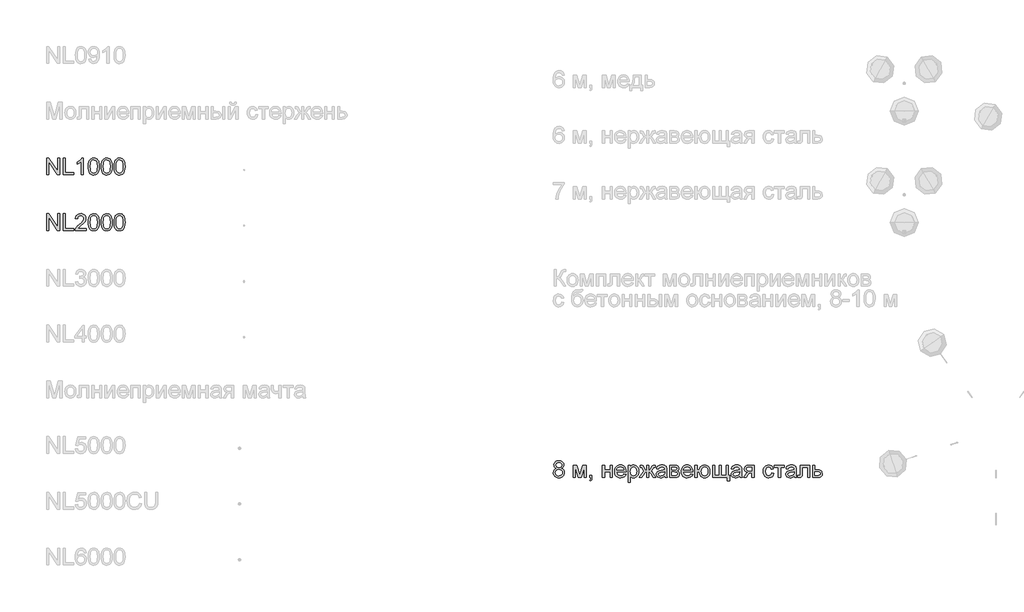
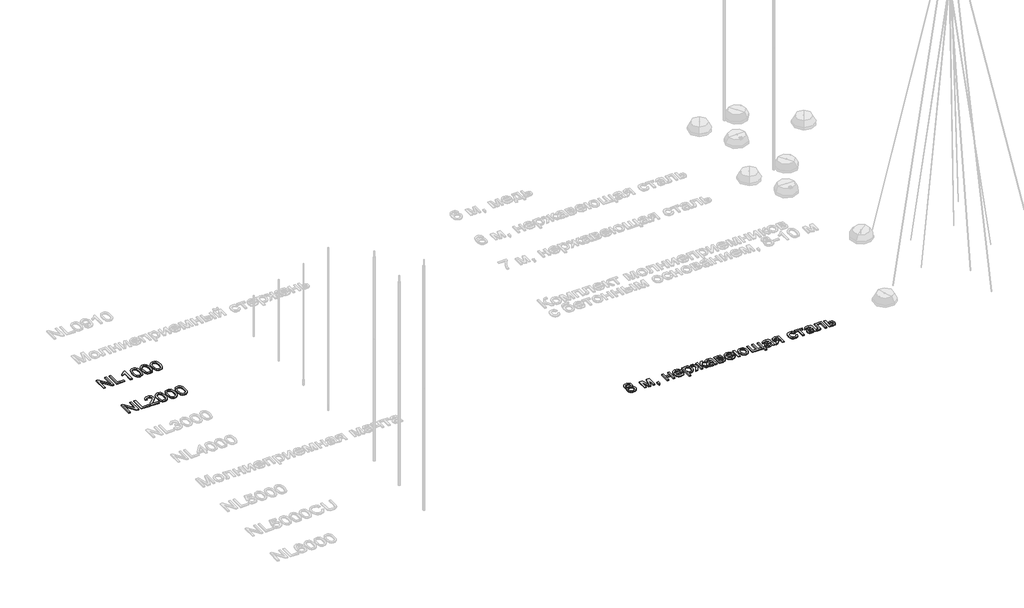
# One storey, part 40 of 124: 3 proxies.
"""IFC4 building model written with IfcOpenShell, lengths in millimetres."""

from ifc_helpers import new_model, si_unit, origin, origin_with_axes, place, context, project, spatial, polyline, outline, extrude, element, save

model = new_model("IFC4")

# Units and contexts
model_context = context("Model", 3, world=origin())
ifc_project = project(units=[si_unit("LENGTHUNIT", "METRE", prefix="MILLI")], contexts=[model_context])

# Site, building, storey
site = spatial("IfcSite", under=ifc_project)
building = spatial("IfcBuilding", under=site)
storey = spatial("IfcBuildingStorey", under=building, Name="Этаж 01", Elevation=0.0)

# Proxies
placement = place(None, origin())
element("IfcBuildingElementProxy", 1, Name="300", ObjectType="300", at=placement, inside=storey, context=model_context, shape_type="SweptSolid", body=[
    extrude(outline(polyline([(1299.8220677, -65074.498362), (1299.8220677, -64773.1294316), (1340.1419344, -64773.1294316), (1497.5954283, -65011.8848464), (1497.5954283, -64773.1294316), (1535.2665446, -64773.1294316), (1535.2665446, -65074.498362), (1494.9466779, -65074.498362), (1337.493184, -64835.6693707), (1337.493184, -65074.498362), (1299.8220677, -65074.498362)])), origin_with_axes(), (0.0, 0.0, 1.0), 20.0),
    extrude(outline(polyline([(1601.1909981, -65074.498362), (1601.1909981, -64773.1294316), (1638.8621144, -64773.1294316), (1638.8621144, -65036.8272457), (1789.5465797, -65036.8272457), (1789.5465797, -65074.498362), (1601.1909981, -65074.498362)])), origin_with_axes(), (0.0, 0.0, 1.0), 20.0),
    extrude(outline(polyline([(1959.0666031, -65074.498362), (1921.3954867, -65074.498362), (1921.3954867, -64839.6424963), (1885.7109332, -64865.0631421), (1846.0532541, -64884.0826413), (1846.0532541, -64848.4716642), (1875.6401636, -64832.3768269), (1901.2723416, -64813.228569), (1921.4782602, -64792.8663006), (1934.7863914, -64773.1294316), (1959.0666031, -64773.1294316), (1959.0666031, -65074.498362)])), origin_with_axes(), (0.0, 0.0, 1.0), 20.0),
    extrude(outline(polyline([(2048.5355043, -64926.2419179), (2051.3038163, -64878.0033913), (2059.6087523, -64839.5321317), (2073.367539, -64810.2395278), (2092.4974027, -64789.5369685), (2117.1362993, -64777.2313158), (2147.4221846, -64773.1294316), (2170.6355385, -64775.5574527), (2191.4208712, -64782.8415162), (2208.8032955, -64794.6965135), (2221.807924, -64810.8373361), (2231.6303733, -64831.1260281), (2239.4662598, -64855.4246339), (2244.5982136, -64886.2807362), (2246.3088649, -64926.2419179), (2243.568144, -64974.2045331), (2235.3459814, -65012.5838222), (2221.6699683, -65041.9040172), (2202.5676957, -65062.68935), (2177.8736167, -65075.0777761), (2147.4221846, -65079.2072515), (2126.6736401, -65077.4138268), (2108.2795403, -65072.0335526), (2092.2398853, -65063.066429), (2078.5546751, -65050.5124559), (2065.4212879, -65027.8187353), (2056.040297, -64999.5424055), (2050.4117025, -64965.6834664), (2048.5355043, -64926.2419179)]), holes=[polyline([(2086.2066206, -64926.1683415), (2090.6212045, -64985.4249339), (2096.1394345, -65005.6929326), (2103.8649564, -65019.7207329), (2123.5834313, -65036.0822847), (2147.4221846, -65041.5361352), (2171.2609379, -65036.0638906), (2190.9794128, -65019.6471565), (2198.7049347, -65005.5963636), (2204.2231646, -64985.3329634), (2208.6377486, -64926.1683415), (2204.3703174, -64868.2453214), (2199.0360285, -64848.0440013), (2191.568024, -64833.682808), (2171.8863373, -64816.5211129), (2146.9807262, -64810.8005479), (2123.3994903, -64815.8405312), (2104.4535675, -64830.9604812), (2096.4705282, -64846.595466), (2090.7683573, -64867.6751043), (2086.2066206, -64926.1683415)])]), origin_with_axes(), (0.0, 0.0, 1.0), 20.0),
    extrude(outline(polyline([(2279.2710917, -64926.2419179), (2282.0394037, -64878.0033913), (2290.3443397, -64839.5321317), (2304.1031263, -64810.2395278), (2323.2329901, -64789.5369685), (2347.8718867, -64777.2313158), (2378.157772, -64773.1294316), (2401.3711259, -64775.5574527), (2422.1564586, -64782.8415162), (2439.5388829, -64794.6965135), (2452.5435114, -64810.8373361), (2462.3659607, -64831.1260281), (2470.2018471, -64855.4246339), (2475.333801, -64886.2807362), (2477.0444523, -64926.2419179), (2474.3037314, -64974.2045331), (2466.0815688, -65012.5838222), (2452.4055556, -65041.9040172), (2433.303283, -65062.68935), (2408.6092041, -65075.0777761), (2378.157772, -65079.2072515), (2357.4092274, -65077.4138268), (2339.0151277, -65072.0335526), (2322.9754727, -65063.066429), (2309.2902625, -65050.5124559), (2296.1568752, -65027.8187353), (2286.7758844, -64999.5424055), (2281.1472898, -64965.6834664), (2279.2710917, -64926.2419179)]), holes=[polyline([(2316.942208, -64926.1683415), (2321.3567919, -64985.4249339), (2326.8750218, -65005.6929326), (2334.6005437, -65019.7207329), (2354.3190187, -65036.0822847), (2378.157772, -65041.5361352), (2401.9965252, -65036.0638906), (2421.7150002, -65019.6471565), (2429.4405221, -65005.5963636), (2434.958752, -64985.3329634), (2439.373336, -64926.1683415), (2435.1059048, -64868.2453214), (2429.7716159, -64848.0440013), (2422.3036114, -64833.682808), (2402.6219246, -64816.5211129), (2377.7163136, -64810.8005479), (2354.1350777, -64815.8405312), (2335.1891549, -64830.9604812), (2327.2061156, -64846.595466), (2321.5039447, -64867.6751043), (2316.942208, -64926.1683415)])]), origin_with_axes(), (0.0, 0.0, 1.0), 20.0),
    extrude(outline(polyline([(2510.006679, -64926.2419179), (2512.774991, -64878.0033913), (2521.0799271, -64839.5321317), (2534.8387137, -64810.2395278), (2553.9685775, -64789.5369685), (2578.6074741, -64777.2313158), (2608.8933593, -64773.1294316), (2632.1067132, -64775.5574527), (2652.892046, -64782.8415162), (2670.2744702, -64794.6965135), (2683.2790988, -64810.8373361), (2693.101548, -64831.1260281), (2700.9374345, -64855.4246339), (2706.0693884, -64886.2807362), (2707.7800396, -64926.2419179), (2705.0393188, -64974.2045331), (2696.8171562, -65012.5838222), (2683.141143, -65041.9040172), (2664.0388704, -65062.68935), (2639.3447915, -65075.0777761), (2608.8933593, -65079.2072515), (2588.1448148, -65077.4138268), (2569.750715, -65072.0335526), (2553.7110601, -65063.066429), (2540.0258498, -65050.5124559), (2526.8924626, -65027.8187353), (2517.5114717, -64999.5424055), (2511.8828772, -64965.6834664), (2510.006679, -64926.2419179)]), holes=[polyline([(2547.6777953, -64926.1683415), (2552.0923793, -64985.4249339), (2557.6106092, -65005.6929326), (2565.3361311, -65019.7207329), (2585.054606, -65036.0822847), (2608.8933593, -65041.5361352), (2632.7321126, -65036.0638906), (2652.4505876, -65019.6471565), (2660.1761095, -65005.5963636), (2665.6943394, -64985.3329634), (2670.1089233, -64926.1683415), (2665.8414922, -64868.2453214), (2660.5072033, -64848.0440013), (2653.0391988, -64833.682808), (2633.357512, -64816.5211129), (2608.4519009, -64810.8005479), (2584.870665, -64815.8405312), (2565.9247423, -64830.9604812), (2557.941703, -64846.595466), (2552.2395321, -64867.6751043), (2547.6777953, -64926.1683415)])]), origin_with_axes(), (0.0, 0.0, 1.0), 20.0),
])
element("IfcBuildingElementProxy", 2, Name="300", ObjectType="300", at=placement, inside=storey, context=model_context, shape_type="SweptSolid", body=[
    extrude(outline(polyline([(1299.8220677, -66074.498362), (1299.8220677, -65773.1294316), (1340.1419344, -65773.1294316), (1497.5954283, -66011.8848464), (1497.5954283, -65773.1294316), (1535.2665446, -65773.1294316), (1535.2665446, -66074.498362), (1494.9466779, -66074.498362), (1337.493184, -65835.6693707), (1337.493184, -66074.498362), (1299.8220677, -66074.498362)])), origin_with_axes(), (0.0, 0.0, 1.0), 20.0),
    extrude(outline(polyline([(1601.1909981, -66074.498362), (1601.1909981, -65773.1294316), (1638.8621144, -65773.1294316), (1638.8621144, -66036.8272457), (1789.5465797, -66036.8272457), (1789.5465797, -66074.498362), (1601.1909981, -66074.498362)])), origin_with_axes(), (0.0, 0.0, 1.0), 20.0),
    extrude(outline(polyline([(2010.864388, -66036.8272457), (2010.864388, -66074.498362), (1813.0910274, -66074.498362), (1817.1377293, -66048.5258931), (1826.4267497, -66028.2280041), (1840.0199894, -66008.5371203), (1859.6832821, -65987.9265315), (1887.1824612, -65964.8695274), (1927.8334217, -65928.7619096), (1952.2239979, -65902.1088591), (1964.4192861, -65880.4773977), (1968.4843821, -65859.4345476), (1964.6492123, -65840.5713983), (1953.1437029, -65824.8904283), (1935.457776, -65814.323018), (1913.0813537, -65810.8005479), (1889.5828912, -65814.2402445), (1871.3267472, -65824.5593345), (1859.5453263, -65840.9484774), (1855.4710332, -65862.5983328), (1817.7999169, -65857.8894432), (1826.9325874, -65821.4507316), (1835.478946, -65806.9147943), (1846.6786535, -65794.8344693), (1860.2741925, -65785.3385153), (1876.0080456, -65778.555691), (1913.890694, -65773.1294316), (1934.0805178, -65774.6377477), (1952.049254, -65779.1626963), (1967.7969026, -65786.7042772), (1981.3234638, -65797.2624904), (1992.1874789, -65810.0555868), (1999.9474898, -65824.3018171), (2004.6034963, -65840.0011812), (2006.1554984, -65857.1536793), (2004.4816354, -65875.1707), (1999.4600461, -65892.875021), (1990.5481048, -65910.8828446), (1977.2031854, -65929.8103733), (1955.930409, -65952.4075249), (1923.2348967, -65981.4242172), (1879.8983977, -66017.6605937), (1862.9022495, -66036.8272457), (2010.864388, -66036.8272457)])), origin_with_axes(), (0.0, 0.0, 1.0), 20.0),
    extrude(outline(polyline([(2048.5355043, -65926.2419179), (2051.3038163, -65878.0033913), (2059.6087523, -65839.5321317), (2073.367539, -65810.2395278), (2092.4974027, -65789.5369685), (2117.1362993, -65777.2313158), (2147.4221846, -65773.1294316), (2170.6355385, -65775.5574527), (2191.4208712, -65782.8415162), (2208.8032955, -65794.6965135), (2221.807924, -65810.8373361), (2231.6303733, -65831.1260281), (2239.4662598, -65855.4246339), (2244.5982136, -65886.2807362), (2246.3088649, -65926.2419179), (2243.568144, -65974.2045331), (2235.3459814, -66012.5838222), (2221.6699683, -66041.9040172), (2202.5676957, -66062.68935), (2177.8736167, -66075.0777761), (2147.4221846, -66079.2072515), (2126.6736401, -66077.4138268), (2108.2795403, -66072.0335526), (2092.2398853, -66063.066429), (2078.5546751, -66050.5124559), (2065.4212879, -66027.8187353), (2056.040297, -65999.5424055), (2050.4117025, -65965.6834664), (2048.5355043, -65926.2419179)]), holes=[polyline([(2086.2066206, -65926.1683415), (2090.6212045, -65985.4249339), (2096.1394345, -66005.6929326), (2103.8649564, -66019.7207329), (2123.5834313, -66036.0822847), (2147.4221846, -66041.5361352), (2171.2609379, -66036.0638906), (2190.9794128, -66019.6471565), (2198.7049347, -66005.5963636), (2204.2231646, -65985.3329634), (2208.6377486, -65926.1683415), (2204.3703174, -65868.2453214), (2199.0360285, -65848.0440013), (2191.568024, -65833.682808), (2171.8863373, -65816.5211129), (2146.9807262, -65810.8005479), (2123.3994903, -65815.8405312), (2104.4535675, -65830.9604812), (2096.4705282, -65846.595466), (2090.7683573, -65867.6751043), (2086.2066206, -65926.1683415)])]), origin_with_axes(), (0.0, 0.0, 1.0), 20.0),
    extrude(outline(polyline([(2279.2710917, -65926.2419179), (2282.0394037, -65878.0033913), (2290.3443397, -65839.5321317), (2304.1031263, -65810.2395278), (2323.2329901, -65789.5369685), (2347.8718867, -65777.2313158), (2378.157772, -65773.1294316), (2401.3711259, -65775.5574527), (2422.1564586, -65782.8415162), (2439.5388829, -65794.6965135), (2452.5435114, -65810.8373361), (2462.3659607, -65831.1260281), (2470.2018471, -65855.4246339), (2475.333801, -65886.2807362), (2477.0444523, -65926.2419179), (2474.3037314, -65974.2045331), (2466.0815688, -66012.5838222), (2452.4055556, -66041.9040172), (2433.303283, -66062.68935), (2408.6092041, -66075.0777761), (2378.157772, -66079.2072515), (2357.4092274, -66077.4138268), (2339.0151277, -66072.0335526), (2322.9754727, -66063.066429), (2309.2902625, -66050.5124559), (2296.1568752, -66027.8187353), (2286.7758844, -65999.5424055), (2281.1472898, -65965.6834664), (2279.2710917, -65926.2419179)]), holes=[polyline([(2316.942208, -65926.1683415), (2321.3567919, -65985.4249339), (2326.8750218, -66005.6929326), (2334.6005437, -66019.7207329), (2354.3190187, -66036.0822847), (2378.157772, -66041.5361352), (2401.9965252, -66036.0638906), (2421.7150002, -66019.6471565), (2429.4405221, -66005.5963636), (2434.958752, -65985.3329634), (2439.373336, -65926.1683415), (2435.1059048, -65868.2453214), (2429.7716159, -65848.0440013), (2422.3036114, -65833.682808), (2402.6219246, -65816.5211129), (2377.7163136, -65810.8005479), (2354.1350777, -65815.8405312), (2335.1891549, -65830.9604812), (2327.2061156, -65846.595466), (2321.5039447, -65867.6751043), (2316.942208, -65926.1683415)])]), origin_with_axes(), (0.0, 0.0, 1.0), 20.0),
    extrude(outline(polyline([(2510.006679, -65926.2419179), (2512.774991, -65878.0033913), (2521.0799271, -65839.5321317), (2534.8387137, -65810.2395278), (2553.9685775, -65789.5369685), (2578.6074741, -65777.2313158), (2608.8933593, -65773.1294316), (2632.1067132, -65775.5574527), (2652.892046, -65782.8415162), (2670.2744702, -65794.6965135), (2683.2790988, -65810.8373361), (2693.101548, -65831.1260281), (2700.9374345, -65855.4246339), (2706.0693884, -65886.2807362), (2707.7800396, -65926.2419179), (2705.0393188, -65974.2045331), (2696.8171562, -66012.5838222), (2683.141143, -66041.9040172), (2664.0388704, -66062.68935), (2639.3447915, -66075.0777761), (2608.8933593, -66079.2072515), (2588.1448148, -66077.4138268), (2569.750715, -66072.0335526), (2553.7110601, -66063.066429), (2540.0258498, -66050.5124559), (2526.8924626, -66027.8187353), (2517.5114717, -65999.5424055), (2511.8828772, -65965.6834664), (2510.006679, -65926.2419179)]), holes=[polyline([(2547.6777953, -65926.1683415), (2552.0923793, -65985.4249339), (2557.6106092, -66005.6929326), (2565.3361311, -66019.7207329), (2585.054606, -66036.0822847), (2608.8933593, -66041.5361352), (2632.7321126, -66036.0638906), (2652.4505876, -66019.6471565), (2660.1761095, -66005.5963636), (2665.6943394, -65985.3329634), (2670.1089233, -65926.1683415), (2665.8414922, -65868.2453214), (2660.5072033, -65848.0440013), (2653.0391988, -65833.682808), (2633.357512, -65816.5211129), (2608.4519009, -65810.8005479), (2584.870665, -65815.8405312), (2565.9247423, -65830.9604812), (2557.941703, -65846.595466), (2552.2395321, -65867.6751043), (2547.6777953, -65926.1683415)])]), origin_with_axes(), (0.0, 0.0, 1.0), 20.0),
])
element("IfcBuildingElementProxy", 3, Name="300", ObjectType="300", at=placement, inside=storey, context=model_context, shape_type="SweptSolid", body=[
    extrude(outline(polyline([(10440.5833928, -70341.4722325), (10420.4142624, -70331.5394187), (10406.2600026, -70318.0749377), (10397.8998843, -70301.354701), (10395.1131782, -70281.6546201), (10396.6306914, -70266.2909483), (10401.1832311, -70252.2056664), (10408.7707972, -70239.3987745), (10419.3933898, -70227.8702724), (10432.5405726, -70218.3421288), (10447.7019094, -70211.5363118), (10484.0670446, -70206.0916583), (10520.652909, -70211.6650705), (10535.9797926, -70218.6318358), (10549.3293105, -70228.3853072), (10560.1450412, -70240.139137), (10567.8705631, -70253.1069773), (10572.5058762, -70267.2888282), (10574.0509806, -70282.6846897), (10571.3010627, -70301.7501741), (10563.051309, -70318.1853023), (10549.2097489, -70331.5670098), (10529.684412, -70341.4722325), (10552.8701747, -70353.4192003), (10569.7467613, -70371.0131568), (10580.0382601, -70393.4079732), (10583.4687597, -70419.7575211), (10581.7673055, -70438.547094), (10576.6629428, -70455.7731684), (10568.1556716, -70471.4357444), (10556.245492, -70485.5348219), (10541.5578034, -70497.1874841), (10524.7180051, -70505.5108142), (10505.7260971, -70510.5048123), (10484.5820794, -70512.1694783), (10463.4380617, -70510.4979145), (10444.4461537, -70505.483223), (10427.6063554, -70497.125404), (10412.9186667, -70485.4244573), (10401.0084871, -70471.2265115), (10392.501216, -70455.3776953), (10387.3968533, -70437.8780086), (10385.6953991, -70418.7274515), (10389.2638544, -70391.3570311), (10399.9692205, -70368.842653), (10417.2596743, -70351.9568694), (10440.5833928, -70341.4722325)]), holes=[polyline([(10432.7842945, -70282.7582661), (10436.1228236, -70299.2025913), (10446.1384109, -70312.3359785), (10462.5367508, -70320.9444172), (10485.0235378, -70323.8138968), (10506.9860929, -70320.9628113), (10523.1361125, -70312.4095549), (10533.0689263, -70299.7176261), (10536.3798643, -70284.4505233), (10532.9585617, -70268.6040064), (10522.6946541, -70255.4982103), (10506.3239053, -70246.6966335), (10484.5820794, -70243.7627746), (10462.7022977, -70246.6322542), (10446.3591401, -70255.2406929), (10436.1780059, -70267.8590453), (10432.7842945, -70282.7582661)]), polyline([(10423.3665154, -70417.4030764), (10429.6572975, -70445.7667782), (10438.3669037, -70457.9344752), (10451.9141582, -70466.9935693), (10468.1377542, -70472.6221638), (10484.876385, -70474.498362), (10510.51776, -70470.5528276), (10529.7579884, -70458.7162244), (10541.7877296, -70440.7911742), (10545.7976434, -70418.5802987), (10541.6589709, -70395.9923442), (10529.2429536, -70377.6718209), (10509.5612669, -70365.531715), (10483.6255862, -70361.4850131), (10458.3428961, -70365.4765327), (10439.2958058, -70377.4510917), (10427.348838, -70395.4221271), (10423.3665154, -70417.4030764)])]), origin_with_axes(), (0.0, 0.0, 1.0), 20.0),
    extrude(outline(polyline([(10743.571004, -70286.1427805), (10808.3918115, -70286.1427805), (10858.3501865, -70463.3147493), (10912.2081106, -70286.1427805), (10974.3065914, -70286.1427805), (10974.3065914, -70507.4605888), (10936.6354751, -70507.4605888), (10936.6354751, -70329.2585503), (10882.4832454, -70507.4605888), (10833.0399052, -70507.4605888), (10781.2421203, -70320.723688), (10781.2421203, -70507.4605888), (10743.571004, -70507.4605888), (10743.571004, -70286.1427805)])), origin_with_axes(), (0.0, 0.0, 1.0), 20.0),
    extrude(outline(polyline([(11040.2310449, -70507.4605888), (11040.2310449, -70469.7894725), (11077.9021612, -70469.7894725), (11077.9021612, -70507.4605888), (11076.209904, -70529.0092766), (11071.1331325, -70545.9778337), (11062.377541, -70558.9916592), (11049.648824, -70568.6761528), (11040.2310449, -70554.5494842), (11048.3980252, -70547.7252731), (11054.0634079, -70538.2891), (11058.9930267, -70507.4605888), (11040.2310449, -70507.4605888)])), origin_with_axes(), (0.0, 0.0, 1.0), 20.0),
    extrude(outline(polyline([(11266.2577427, -70286.1427805), (11303.928859, -70286.1427805), (11303.928859, -70370.9027922), (11402.8155393, -70370.9027922), (11402.8155393, -70286.1427805), (11440.4866556, -70286.1427805), (11440.4866556, -70507.4605888), (11402.8155393, -70507.4605888), (11402.8155393, -70408.5739085), (11303.928859, -70408.5739085), (11303.928859, -70507.4605888), (11266.2577427, -70507.4605888), (11266.2577427, -70286.1427805)])), origin_with_axes(), (0.0, 0.0, 1.0), 20.0),
    extrude(outline(polyline([(11651.9452265, -70441.5361352), (11688.8805788, -70446.2450248), (11675.5724476, -70474.0752977), (11654.3364594, -70494.8790245), (11625.6508609, -70507.8468649), (11589.9938985, -70512.1694783), (11566.6195962, -70510.3047764), (11545.7928768, -70504.7106709), (11527.5137401, -70495.3871615), (11511.7821863, -70482.3342485), (11499.1316442, -70465.9152152), (11490.0955427, -70446.4933451), (11484.6738818, -70424.0686383), (11482.8666615, -70398.6410946), (11484.6922759, -70372.3513275), (11490.1691191, -70349.1793603), (11499.2971911, -70329.1251931), (11512.0764919, -70312.1888257), (11527.766659, -70298.7335418), (11545.6273299, -70289.1226246), (11565.6585045, -70283.3560744), (11587.8601829, -70281.4338909), (11609.3467907, -70283.3514758), (11628.7778578, -70289.1042305), (11646.1533843, -70298.692155), (11661.4733702, -70312.1152493), (11673.9790587, -70329.0148285), (11682.9116934, -70349.0322075), (11688.2712742, -70372.1673865), (11690.0578012, -70398.4203654), (11689.837072, -70408.5739085), (11520.5377778, -70408.5739085), (11527.0584862, -70436.7720634), (11542.2060273, -70457.5022138), (11564.0674149, -70470.249325), (11590.7296625, -70474.498362), (11610.7792312, -70472.5301933), (11627.6650148, -70466.6256873), (11641.3870132, -70456.4169619), (11651.9452265, -70441.5361352)]), holes=[polyline([(11520.5377778, -70370.9027922), (11652.3866849, -70370.9027922), (11647.2915192, -70351.0003762), (11637.3035231, -70336.763343), (11615.340968, -70323.5195912), (11587.7130301, -70319.1050072), (11562.3199754, -70322.6274773), (11541.3231105, -70333.1948877), (11526.7273924, -70349.666804), (11520.5377778, -70370.9027922)])]), origin_with_axes(), (0.0, 0.0, 1.0), 20.0),
    extrude(outline(polyline([(11727.7289175, -70592.2206005), (11727.7289175, -70286.1427805), (11765.4000338, -70286.1427805), (11765.4000338, -70323.0781328), (11777.6872924, -70304.858777), (11791.446079, -70291.8449514), (11807.485734, -70284.036656), (11826.6155978, -70281.4338909), (11852.091426, -70285.0759227), (11874.3666808, -70296.0020179), (11892.5032631, -70313.5499891), (11905.563074, -70337.0576486), (11913.4541427, -70364.8143451), (11916.084499, -70395.1094274), (11913.1138519, -70427.3266932), (11904.2019106, -70456.1410504), (11889.6337836, -70480.0901683), (11869.6945794, -70497.7117159), (11846.4720285, -70508.5550377), (11822.053861, -70512.1694783), (11804.7358161, -70509.7506542), (11789.2755753, -70502.4941818), (11776.0410205, -70491.5404954), (11765.4000338, -70478.0300292), (11765.4000338, -70592.2206005), (11727.7289175, -70592.2206005)]), holes=[polyline([(11765.4000338, -70398.5675182), (11769.4743269, -70432.3390854), (11781.6972062, -70455.9571094), (11799.732621, -70469.8630489), (11821.2445207, -70474.498362), (11843.1059082, -70469.697502), (11861.6011755, -70455.2949219), (11874.2103309, -70430.8123751), (11878.4133827, -70395.771615), (11874.3114985, -70362.1839889), (11862.0058457, -70338.234871), (11843.9980221, -70323.8874732), (11822.789625, -70319.1050072), (11801.4984546, -70324.1909758), (11782.8008522, -70339.4488816), (11769.7502384, -70364.4004779), (11765.4000338, -70398.5675182)])]), origin_with_axes(), (0.0, 0.0, 1.0), 20.0),
    extrude(outline(polyline([(12095.0223015, -70286.1427805), (12095.0223015, -70380.3205712), (12108.3120385, -70378.3799937), (12116.9848566, -70372.5582611), (12137.7701893, -70332.2751827), (12150.7380296, -70307.1672365), (12162.5654358, -70293.6475732), (12176.9312277, -70288.0189786), (12197.8085309, -70286.1427805), (12212.7445399, -70286.1427805), (12212.7445399, -70324.034626), (12202.3702677, -70323.8138968), (12182.9460983, -70327.7134459), (12169.4816173, -70352.1408104), (12153.8466325, -70378.9226197), (12131.5161954, -70392.5342535), (12143.9092201, -70397.8363527), (12156.145895, -70407.194351), (12180.1501952, -70438.0780445), (12222.162319, -70507.4605888), (12178.9729728, -70507.4605888), (12137.6230365, -70439.0345377), (12126.3198622, -70421.0726993), (12116.5433982, -70410.5972594), (12106.6565696, -70405.5480791), (12095.0223015, -70403.8650189), (12095.0223015, -70507.4605888), (12057.3511852, -70507.4605888), (12057.3511852, -70403.8650189), (12045.8088876, -70405.5112909), (12035.9036648, -70410.4501066), (12026.0536244, -70420.8519701), (12014.6768737, -70438.8873849), (11973.3269375, -70507.4605888), (11930.2111676, -70507.4605888), (11972.0761387, -70438.0780445), (11996.2643799, -70407.194351), (12008.5654341, -70397.8363527), (12021.004444, -70392.5342535), (12006.620258, -70385.3237664), (11997.3128435, -70377.5246681), (11977.0057574, -70338.8970586), (11967.0729435, -70326.1683415), (11950.8125594, -70323.5931676), (11939.6289467, -70323.8138968), (11939.6289467, -70286.1427805), (11945.2943294, -70286.1427805), (11978.3301326, -70288.4972252), (11995.4734336, -70298.5036155), (12014.6768737, -70332.2751827), (12035.2414773, -70372.3007437), (12043.9142953, -70378.3156144), (12057.3511852, -70380.3205712), (12057.3511852, -70286.1427805), (12095.0223015, -70286.1427805)])), origin_with_axes(), (0.0, 0.0, 1.0), 20.0),
    extrude(outline(polyline([(12382.2645633, -70479.2072515), (12364.2659367, -70494.6399012), (12345.7338812, -70504.738262), (12326.2453325, -70510.3116742), (12305.3772263, -70512.1694783), (12273.8957246, -70507.6997121), (12250.6731736, -70494.2904133), (12236.353367, -70473.9281449), (12231.5800981, -70448.5994695), (12233.3827199, -70432.9828788), (12238.7905852, -70418.8010279), (12247.1323094, -70406.6609221), (12257.7365079, -70397.1695666), (12284.113647, -70384.8087316), (12316.7079918, -70379.1433489), (12355.2252367, -70373.1836605), (12382.0438341, -70366.1939026), (12382.2645633, -70357.8061931), (12379.6709952, -70340.993986), (12371.890291, -70329.9943143), (12354.4894727, -70321.827334), (12330.2460492, -70319.1050072), (12307.8052475, -70320.9168261), (12292.1334745, -70326.3522825), (12281.4465025, -70336.4046581), (12273.9601039, -70352.067234), (12236.2889876, -70347.3583445), (12242.8280901, -70326.7569527), (12252.58616, -70310.570145), (12266.4737053, -70298.1909158), (12285.401234, -70289.01226), (12308.5502085, -70283.3284832), (12335.1020915, -70281.4338909), (12360.5687226, -70283.107754), (12380.7562471, -70288.1293432), (12395.9773647, -70295.6801212), (12406.544775, -70304.9415504), (12413.552927, -70316.3918775), (12418.0962696, -70330.5093491), (12419.9356796, -70363.4715759), (12419.9356796, -70410.339742), (12421.848666, -70475.785949), (12429.3534587, -70507.4605888), (12391.6823424, -70507.4605888), (12382.2645633, -70479.2072515)]), holes=[polyline([(12382.2645633, -70403.8650189), (12321.4904577, -70415.4165136), (12289.0800539, -70421.5233547), (12274.4015623, -70431.4561686), (12269.2512144, -70445.9507192), (12272.0563146, -70457.1527259), (12280.4716152, -70466.3313817), (12294.3131753, -70472.4566169), (12313.3970538, -70474.498362), (12333.6305635, -70472.2450848), (12351.5096285, -70465.4852531), (12366.0041791, -70455.5248481), (12376.0841458, -70443.6698508), (12380.553912, -70431.4561686), (12382.0438341, -70414.5335968), (12382.2645633, -70403.8650189)])]), origin_with_axes(), (0.0, 0.0, 1.0), 20.0),
    extrude(outline(polyline([(12471.7334645, -70286.1427805), (12554.7276426, -70286.1427805), (12581.4082843, -70287.4027763), (12600.2346454, -70291.1827638), (12614.0854026, -70298.3196745), (12625.8392323, -70309.65044), (12633.8682569, -70324.411705), (12636.5445984, -70341.8401145), (12634.9259176, -70355.8840097), (12630.0698753, -70367.9965244), (12621.9580773, -70378.2328409), (12610.5721295, -70386.6481416), (12624.5148571, -70394.474831), (12635.8824108, -70407.0655923), (12643.4423858, -70423.427144), (12645.9623774, -70442.5662048), (12639.5796248, -70471.2793945), (12624.4044925, -70491.4945102), (12600.3817982, -70503.4690691), (12567.4563597, -70507.4605888), (12471.7334645, -70507.4605888), (12471.7334645, -70286.1427805)]), holes=[polyline([(12509.4045808, -70370.9027922), (12546.6342387, -70370.9027922), (12577.3523853, -70368.9898058), (12592.2883943, -70361.3378603), (12597.2272101, -70355.01029), (12598.8734821, -70347.5054973), (12595.9856084, -70336.2667023), (12587.3219874, -70329.0378211), (12571.6686085, -70325.1198779), (12547.8114611, -70323.8138968), (12509.4045808, -70323.8138968), (12509.4045808, -70370.9027922)]), polyline([(12509.4045808, -70469.7894725), (12555.6105594, -70469.7894725), (12580.792082, -70468.0880182), (12596.5926137, -70462.9836556), (12605.0722937, -70453.7038322), (12608.2912611, -70439.4759961), (12606.6817774, -70430.0490199), (12601.8533262, -70421.3394137), (12594.440504, -70414.5243997), (12585.0779072, -70410.7812004), (12551.9317395, -70408.5739085), (12509.4045808, -70408.5739085), (12509.4045808, -70469.7894725)])]), origin_with_axes(), (0.0, 0.0, 1.0), 20.0),
    extrude(outline(polyline([(12848.0031692, -70441.5361352), (12884.9385215, -70446.2450248), (12871.6303903, -70474.0752977), (12850.3944022, -70494.8790245), (12821.7088036, -70507.8468649), (12786.0518412, -70512.1694783), (12762.6775389, -70510.3047764), (12741.8508195, -70504.7106709), (12723.5716829, -70495.3871615), (12707.840129, -70482.3342485), (12695.1895869, -70465.9152152), (12686.1534854, -70446.4933451), (12680.7318245, -70424.0686383), (12678.9246042, -70398.6410946), (12680.7502186, -70372.3513275), (12686.2270618, -70349.1793603), (12695.3551338, -70329.1251931), (12708.1344346, -70312.1888257), (12723.8246017, -70298.7335418), (12741.6852726, -70289.1226246), (12761.7164472, -70283.3560744), (12783.9181256, -70281.4338909), (12805.4047334, -70283.3514758), (12824.8358006, -70289.1042305), (12842.211327, -70298.692155), (12857.5313129, -70312.1152493), (12870.0370014, -70329.0148285), (12878.9696361, -70349.0322075), (12884.329217, -70372.1673865), (12886.1157439, -70398.4203654), (12885.8950147, -70408.5739085), (12716.5957205, -70408.5739085), (12723.1164289, -70436.7720634), (12738.26397, -70457.5022138), (12760.1253576, -70470.249325), (12786.7876052, -70474.498362), (12806.8371739, -70472.5301933), (12823.7229575, -70466.6256873), (12837.4449559, -70456.4169619), (12848.0031692, -70441.5361352)]), holes=[polyline([(12716.5957205, -70370.9027922), (12848.4446276, -70370.9027922), (12843.349462, -70351.0003762), (12833.3614658, -70336.763343), (12811.3989107, -70323.5195912), (12783.7709728, -70319.1050072), (12758.3779181, -70322.6274773), (12737.3810532, -70333.1948877), (12722.7853351, -70349.666804), (12716.5957205, -70370.9027922)])]), origin_with_axes(), (0.0, 0.0, 1.0), 20.0),
    extrude(outline(polyline([(12923.7868602, -70286.1427805), (12961.4579765, -70286.1427805), (12961.4579765, -70370.9027922), (13003.8379824, -70370.9027922), (13013.6144464, -70332.4959119), (13022.1378124, -70317.1552327), (13033.084601, -70304.3897274), (13046.1467111, -70294.346549), (13061.0160415, -70287.1728501), (13096.1763631, -70281.4338909), (13125.7264844, -70284.8092082), (13148.3052419, -70294.9351602), (13165.7244543, -70310.9840122), (13179.7959406, -70332.1280299), (13189.0941581, -70359.9399087), (13192.1935639, -70395.9923442), (13190.5909779, -70422.8477299), (13185.7832201, -70446.2450248), (13177.7702904, -70466.1842289), (13166.5521888, -70482.6653423), (13152.5887678, -70495.5734018), (13136.33988, -70504.7934443), (13117.8055252, -70510.3254698), (13096.9857035, -70512.1694783), (13077.5822275, -70510.4404329), (13060.2067011, -70505.2532968), (13044.8591241, -70496.6080699), (13031.5394966, -70484.5047523), (13020.5789124, -70469.3848023), (13012.3084653, -70451.6896783), (13003.8379824, -70408.5739085), (12961.4579765, -70408.5739085), (12961.4579765, -70507.4605888), (12923.7868602, -70507.4605888), (12923.7868602, -70286.1427805)]), holes=[polyline([(13098.6043843, -70319.1050072), (13074.5908871, -70323.9794437), (13056.5554723, -70338.602753), (13045.2706921, -70362.018442), (13041.5090987, -70393.2700175), (13045.2982832, -70429.6811379), (13056.6658369, -70454.8902517), (13074.3793549, -70469.5963344), (13097.2064327, -70474.498362), (13120.0978899, -70469.9642164), (13138.4460044, -70456.3617796), (13150.5033368, -70432.6609821), (13154.5224476, -70397.8317542), (13151.0459627, -70363.3888024), (13140.6165082, -70338.786694), (13123.1605075, -70324.0254289), (13098.6043843, -70319.1050072)])]), origin_with_axes(), (0.0, 0.0, 1.0), 20.0),
    extrude(outline(polyline([(13239.2824593, -70286.1427805), (13276.9535756, -70286.1427805), (13276.9535756, -70469.7894725), (13361.7135873, -70469.7894725), (13361.7135873, -70286.1427805), (13399.3847036, -70286.1427805), (13399.3847036, -70469.7894725), (13484.1447153, -70469.7894725), (13484.1447153, -70286.1427805), (13521.8158316, -70286.1427805), (13521.8158316, -70469.7894725), (13545.3602793, -70469.7894725), (13545.3602793, -70568.6761528), (13507.6891629, -70568.6761528), (13507.6891629, -70507.4605888), (13239.2824593, -70507.4605888), (13239.2824593, -70286.1427805)])), origin_with_axes(), (0.0, 0.0, 1.0), 20.0),
    extrude(outline(polyline([(13724.2980817, -70479.2072515), (13706.2994551, -70494.6399012), (13687.7673996, -70504.738262), (13668.2788509, -70510.3116742), (13647.4107447, -70512.1694783), (13615.929243, -70507.6997121), (13592.706692, -70494.2904133), (13578.3868854, -70473.9281449), (13573.6136165, -70448.5994695), (13575.4162383, -70432.9828788), (13580.8241036, -70418.8010279), (13589.1658278, -70406.6609221), (13599.7700263, -70397.1695666), (13626.1471654, -70384.8087316), (13658.7415102, -70379.1433489), (13697.2587551, -70373.1836605), (13724.0773525, -70366.1939026), (13724.2980817, -70357.8061931), (13721.7045136, -70340.993986), (13713.9238094, -70329.9943143), (13696.5229911, -70321.827334), (13672.2795676, -70319.1050072), (13649.8387659, -70320.9168261), (13634.1669929, -70326.3522825), (13623.4800209, -70336.4046581), (13615.9936223, -70352.067234), (13578.322506, -70347.3583445), (13584.8616085, -70326.7569527), (13594.6196784, -70310.570145), (13608.5072237, -70298.1909158), (13627.4347524, -70289.01226), (13650.5837269, -70283.3284832), (13677.1356099, -70281.4338909), (13702.602241, -70283.107754), (13722.7897655, -70288.1293432), (13738.0108831, -70295.6801212), (13748.5782934, -70304.9415504), (13755.5864454, -70316.3918775), (13760.129788, -70330.5093491), (13761.969198, -70363.4715759), (13761.969198, -70410.339742), (13763.8821844, -70475.785949), (13771.3869771, -70507.4605888), (13733.7158608, -70507.4605888), (13724.2980817, -70479.2072515)]), holes=[polyline([(13724.2980817, -70403.8650189), (13663.5239761, -70415.4165136), (13631.1135723, -70421.5233547), (13616.4350807, -70431.4561686), (13611.2847328, -70445.9507192), (13614.089833, -70457.1527259), (13622.5051336, -70466.3313817), (13636.3466937, -70472.4566169), (13655.4305722, -70474.498362), (13675.6640819, -70472.2450848), (13693.5431469, -70465.4852531), (13708.0376975, -70455.5248481), (13718.1176642, -70443.6698508), (13722.5874304, -70431.4561686), (13724.0773525, -70414.5335968), (13724.2980817, -70403.8650189)])]), origin_with_axes(), (0.0, 0.0, 1.0), 20.0),
    extrude(outline(polyline([(13983.2870063, -70286.1427805), (13983.2870063, -70507.4605888), (13945.61589, -70507.4605888), (13945.61589, -70422.7005771), (13925.0880747, -70422.7005771), (13897.129043, -70427.483043), (13885.9638245, -70437.9124976), (13870.8622686, -70459.6359294), (13840.8430978, -70507.4605888), (13797.2858696, -70507.4605888), (13835.1041387, -70446.9807888), (13851.8059812, -70425.275751), (13867.1834486, -70415.6372428), (13841.431709, -70407.746174), (13823.3319148, -70392.7549827), (13812.6265487, -70372.8157785), (13809.0580934, -70350.0806712), (13813.9325298, -70324.2921434), (13828.5558391, -70303.8746926), (13852.4129865, -70290.5757585), (13884.9889372, -70286.1427805), (13983.2870063, -70286.1427805)]), holes=[polyline([(13945.61589, -70323.8138968), (13895.9518207, -70323.8138968), (13870.3012485, -70325.9935976), (13855.7423186, -70332.5327001), (13848.9824869, -70341.9964644), (13846.7292097, -70352.9501508), (13850.0493447, -70367.3067457), (13860.0097497, -70377.2671507), (13878.4130465, -70383.0888833), (13907.0618569, -70385.0294608), (13945.61589, -70385.0294608), (13945.61589, -70323.8138968)])]), origin_with_axes(), (0.0, 0.0, 1.0), 20.0),
    extrude(outline(polyline([(14298.7826054, -70427.4094666), (14336.4537217, -70432.1183562), (14325.9506907, -70465.6232089), (14306.2138217, -70490.9426872), (14279.1009186, -70506.8627805), (14246.4697857, -70512.1694783), (14225.3418628, -70510.318572), (14206.3982393, -70504.7658532), (14189.6389152, -70495.5113217), (14175.0638904, -70482.5549777), (14163.2663747, -70466.1405429), (14154.8395777, -70446.5117392), (14149.7834995, -70423.6685666), (14148.0981402, -70397.611025), (14150.9768168, -70364.0877782), (14159.6128466, -70335.0342976), (14174.1441854, -70311.5726234), (14194.7087889, -70294.8247956), (14219.3108974, -70284.7816171), (14245.9547509, -70281.4338909), (14277.7857405, -70286.0324159), (14303.2339775, -70299.8279907), (14321.4901215, -70322.0848514), (14331.7448321, -70352.067234), (14294.0737158, -70356.7761235), (14287.2403078, -70340.3409954), (14276.5993211, -70328.5595745), (14262.7393669, -70321.4686491), (14246.2490565, -70319.1050072), (14221.9044654, -70323.7587145), (14202.5814636, -70337.7198362), (14189.9723083, -70361.7425305), (14185.7692565, -70396.5809554), (14189.8803378, -70431.8884299), (14202.2135816, -70455.9938976), (14221.1870955, -70469.8722459), (14245.2189869, -70474.498362), (14264.7259297, -70471.6104883), (14280.7195994, -70462.9468674), (14292.3538675, -70448.2867698), (14298.7826054, -70427.4094666)])), origin_with_axes(), (0.0, 0.0, 1.0), 20.0),
    extrude(outline(polyline([(14350.5803903, -70286.1427805), (14529.5181928, -70286.1427805), (14529.5181928, -70323.8138968), (14458.8848497, -70323.8138968), (14458.8848497, -70507.4605888), (14421.2137334, -70507.4605888), (14421.2137334, -70323.8138968), (14350.5803903, -70323.8138968), (14350.5803903, -70286.1427805)])), origin_with_axes(), (0.0, 0.0, 1.0), 20.0),
    extrude(outline(polyline([(14703.7471057, -70479.2072515), (14685.7484791, -70494.6399012), (14667.2164235, -70504.738262), (14647.7278749, -70510.3116742), (14626.8597687, -70512.1694783), (14595.3782669, -70507.6997121), (14572.155716, -70494.2904133), (14557.8359093, -70473.9281449), (14553.0626404, -70448.5994695), (14554.8652622, -70432.9828788), (14560.2731275, -70418.8010279), (14568.6148518, -70406.6609221), (14579.2190503, -70397.1695666), (14605.5961894, -70384.8087316), (14638.1905341, -70379.1433489), (14676.707779, -70373.1836605), (14703.5263765, -70366.1939026), (14703.7471057, -70357.8061931), (14701.1535376, -70340.993986), (14693.3728334, -70329.9943143), (14675.972015, -70321.827334), (14651.7285915, -70319.1050072), (14629.2877898, -70320.9168261), (14613.6160168, -70326.3522825), (14602.9290449, -70336.4046581), (14595.4426463, -70352.067234), (14557.77153, -70347.3583445), (14564.3106324, -70326.7569527), (14574.0687024, -70310.570145), (14587.9562477, -70298.1909158), (14606.8837763, -70289.01226), (14630.0327509, -70283.3284832), (14656.5846339, -70281.4338909), (14682.051265, -70283.107754), (14702.2387895, -70288.1293432), (14717.459907, -70295.6801212), (14728.0273173, -70304.9415504), (14735.0354694, -70316.3918775), (14739.578812, -70330.5093491), (14741.418222, -70363.4715759), (14741.418222, -70410.339742), (14743.3312083, -70475.785949), (14750.836001, -70507.4605888), (14713.1648847, -70507.4605888), (14703.7471057, -70479.2072515)]), holes=[polyline([(14703.7471057, -70403.8650189), (14642.9730001, -70415.4165136), (14610.5625963, -70421.5233547), (14595.8841047, -70431.4561686), (14590.7337567, -70445.9507192), (14593.538857, -70457.1527259), (14601.9541576, -70466.3313817), (14615.7957177, -70472.4566169), (14634.8795962, -70474.498362), (14655.1131059, -70472.2450848), (14672.9921709, -70465.4852531), (14687.4867215, -70455.5248481), (14697.5666881, -70443.6698508), (14702.0364544, -70431.4561686), (14703.5263765, -70414.5335968), (14703.7471057, -70403.8650189)])]), origin_with_axes(), (0.0, 0.0, 1.0), 20.0),
    extrude(outline(polyline([(14812.051565, -70286.1427805), (14981.5715884, -70286.1427805), (14981.5715884, -70507.2398596), (14943.9004721, -70507.2398596), (14943.9004721, -70323.8138968), (14849.7226814, -70323.8138968), (14849.7226814, -70429.3960294), (14847.1842956, -70478.1036056), (14842.4294208, -70489.1308684), (14833.241568, -70498.6682091), (14819.2988404, -70505.2624938), (14800.2793412, -70507.4605888), (14769.6715592, -70505.5476024), (14769.6715592, -70469.7894725), (14786.5205546, -70469.7894725), (14803.553491, -70467.4718159), (14810.3593079, -70460.114176), (14812.051565, -70427.2623138), (14812.051565, -70286.1427805)])), origin_with_axes(), (0.0, 0.0, 1.0), 20.0),
    extrude(outline(polyline([(15038.0782629, -70286.1427805), (15075.7493792, -70286.1427805), (15075.7493792, -70366.1939026), (15119.1594546, -70366.1939026), (15156.7937827, -70370.9119892), (15171.9413239, -70376.8095974), (15184.6424498, -70385.066249), (15194.6856282, -70395.3968353), (15201.8593271, -70407.5162477), (15207.5982863, -70437.1215513), (15202.7146528, -70464.0781045), (15188.0637523, -70486.8224088), (15176.8318552, -70495.8516126), (15162.6706976, -70502.3010438), (15125.5606013, -70507.4605888), (15038.0782629, -70507.4605888), (15038.0782629, -70286.1427805)]), holes=[polyline([(15075.7493792, -70469.7894725), (15110.9188979, -70469.7894725), (15138.2065449, -70467.8121067), (15156.3523243, -70461.8800096), (15166.5334585, -70451.7540577), (15169.92717, -70437.1951277), (15167.4163753, -70424.889475), (15159.8839915, -70414.018562), (15143.7431689, -70406.4034047), (15115.4070583, -70403.8650189), (15075.7493792, -70403.8650189), (15075.7493792, -70469.7894725)])]), origin_with_axes(), (0.0, 0.0, 1.0), 20.0),
])

save(model, "model.ifc")
